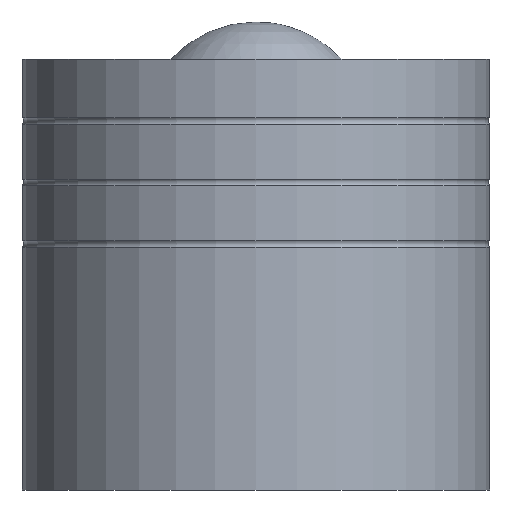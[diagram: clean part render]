
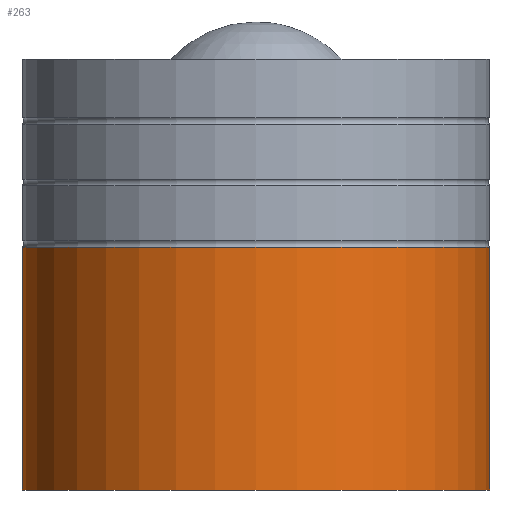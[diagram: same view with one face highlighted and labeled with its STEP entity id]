
A CAD part, front view. The second image highlights one B-rep face of the part: STEP entity #263.
In plain terms, the highlighted cylindrical face has radius 18.975 mm (diameter 37.95 mm), a full revolution.
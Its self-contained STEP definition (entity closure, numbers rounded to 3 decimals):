
#31=FACE_BOUND('',#97,.T.);
#53=CYLINDRICAL_SURFACE('',#297,18.975);
#67=FACE_OUTER_BOUND('',#96,.T.);
#96=EDGE_LOOP('',(#216));
#97=EDGE_LOOP('',(#217));
#140=CIRCLE('',#296,18.975);
#141=CIRCLE('',#298,18.975);
#164=VERTEX_POINT('',#452);
#165=VERTEX_POINT('',#455);
#188=EDGE_CURVE('',#164,#164,#140,.T.);
#189=EDGE_CURVE('',#165,#165,#141,.T.);
#216=ORIENTED_EDGE('',*,*,#188,.T.);
#217=ORIENTED_EDGE('',*,*,#189,.F.);
#263=ADVANCED_FACE('',(#67,#31),#53,.T.);
#296=AXIS2_PLACEMENT_3D('',#453,#359,#360);
#297=AXIS2_PLACEMENT_3D('',#454,#361,#362);
#298=AXIS2_PLACEMENT_3D('',#456,#363,#364);
#359=DIRECTION('center_axis',(0.,0.,-1.));
#360=DIRECTION('ref_axis',(1.,0.,0.));
#361=DIRECTION('center_axis',(0.,0.,-1.));
#362=DIRECTION('ref_axis',(0.,1.,0.));
#363=DIRECTION('center_axis',(0.,0.,-1.));
#364=DIRECTION('ref_axis',(1.,0.,0.));
#452=CARTESIAN_POINT('',(0.,18.975,19.735));
#453=CARTESIAN_POINT('Origin',(0.,0.,19.735));
#454=CARTESIAN_POINT('Origin',(0.,0.,9.868));
#455=CARTESIAN_POINT('',(0.,18.975,0.));
#456=CARTESIAN_POINT('Origin',(0.,0.,0.));
